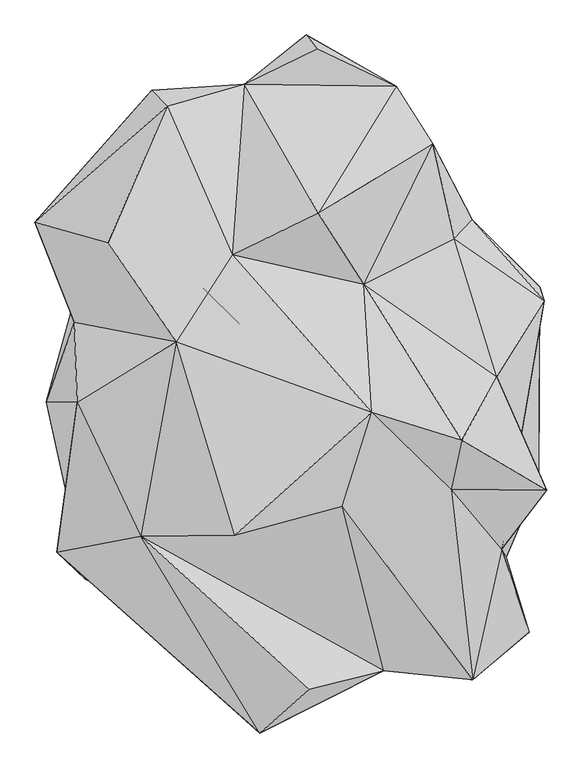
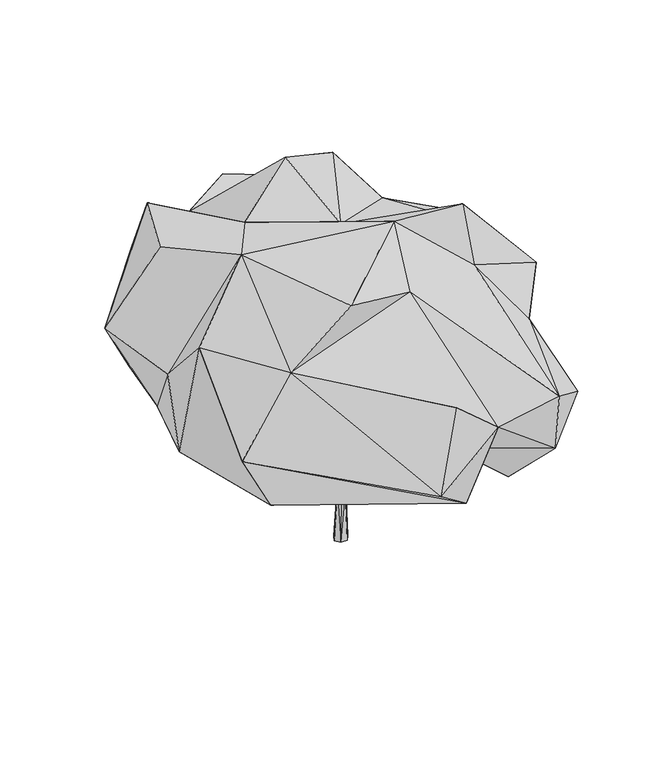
"""IFC4 building model written with IfcOpenShell, lengths in millimetres: geographic element geometry, Enscape AssetDefinition - Evergreen Tree 022 Ficus : Enscape AssetDefinition - Evergreen Tree 022 Ficus."""

from ifc_helpers import new_model, si_unit, origin, place, context, project, spatial, triangles, source, transform, mapped, element, save


def geographic_element_002eea6f(model_context):
    return source(origin(), model_context, "Body", "Tessellation", [
        triangles([(61.7310658, -33.4773216, 197.4501027), (116.2633613, -68.2591965, 326.882155), (314.4827302, -324.8400558, 722.4356272), (121.4255825, -53.480184, 326.3919597), (48.5447794, -12.6763225, 210.8935953), (46.5692596, -20.8706556, 206.6611865), (52.761487, -28.8826484, 200.9000374), (308.0960924, -316.7555929, 730.591452), (125.0771765, -71.2442387, 318.5719428), (73.9960012, -18.8830498, 195.5917132), (61.156278, -3.082454, 207.3168878), (321.4357215, -310.6080757, 728.1243788), (324.3193027, -317.663677, 722.2895605), (133.7339882, -62.3096732, 320.0402398), (-25.9686048, 22.9290238, 363.1227482), (64.3236492, -18.1911396, 225.0097032), (51.0842229, -24.208288, 231.9916716), (2.1548918, -133.0531431, 357.4110692), (-41.170275, 20.0454221, 371.7844288), (-36.5442038, 32.6013758, 373.0885643), (-102.222049, 78.2147934, 439.3375365), (-157.1661153, 108.6035999, 496.9249372), (-106.2890155, 76.665533, 425.8952974), (-57.9139432, 28.7940182, 365.7443178), (-44.6854084, 34.81117, 354.2304857), (51.8111634, -12.9214531, 213.4958347), (48.7452305, -22.6010573, 211.7376753), (-103.1941099, 64.7109302, 438.084161), (-115.3141459, 69.2174456, 433.8867791), (-160.4916754, 96.6973045, 499.3689377), (-152.2309151, 95.8363378, 507.278375), (-252.1001462, 190.7075091, 656.2145966), (-240.4920794, 197.2342183, 662.6121712), (-246.0757138, 202.6874647, 654.6013229), (-146.868261, 105.6753266, 503.7112962), (57.5614438, -29.7387962, 219.8027899), (38.23726, -92.5270285, 303.9402051), (23.6381534, -96.1508444, 297.1381494), (33.4554161, -99.3701337, 298.1199027), (28.7750196, -84.5041625, 304.7661721), (91.2686024, -311.9242018, 751.7533144), (23.7407952, -132.4228219, 364.7251213), (18.2899889, -124.076311, 364.4099516), (92.6318913, -323.9814963, 749.2344275), (79.146141, -313.5290457, 748.8878643), (7.1057873, -132.670354, 376.7340177), (-189.3155338, -339.6600451, 584.0291408), (81.4730611, -325.4727934, 746.3992081), (-195.7335832, -336.867047, 580.5623102), (7.663668, -148.2294606, 367.0158245), (-195.6804614, -343.4771087, 575.9084882), (12.8935035, -144.5790657, 374.653476), (64.6182805, -8.4692658, 196.3585087), (341.6981838, -14.3839081, 699.196784), (349.4480742, -26.8408399, 695.0790848), (56.3599456, -30.5719938, 203.7667229), (70.2888646, -24.7685735, 195.3405657), (49.2958691, -9.1068467, 204.4079265), (47.4773164, -22.2267183, 206.908755), (336.8873219, -25.9762487, 702.2287937), (-44.7542268, 184.2641524, 487.280395), (51.4006008, 96.1829463, 295.3631669), (-27.9344731, 185.3219367, 493.5233279), (37.8122042, 104.5596334, 307.2791001), (49.9515568, -25.4158201, 213.8544793), (66.0335194, -24.2191521, 214.6272882), (46.087444, -13.9442297, 197.4319897), (45.106926, -18.5944535, 205.7120984), (20.0046905, 131.4429761, 329.2949075), (40.3661407, 125.0538948, 305.2879063), (-44.5694816, 188.4579008, 507.6720283), (-36.2338575, 214.7737364, 522.2107847), (-36.2254119, 191.3789253, 483.1433292), (58.3560038, 367.8456794, 724.988669), (-26.9684484, 197.253603, 506.198826), (-27.7062417, 206.6554637, 534.8113601), (53.4232198, 360.1259108, 732.1396133), (46.5873635, 366.4606258, 729.3394209), (72.0494539, -15.1517675, 203.2281838), (61.0850342, -9.199824, 193.1198982), (87.868165, -19.7403467, -5.3e-06), (62.3915814, 0.7514672, 218.9382169), (72.3223524, -43.7461488, -1.18e-05), (66.6590126, 6.1818118, 1.7e-06), (80.5058327, -17.1248859, 221.7324504), (42.5143563, 3.416556, 9e-07), (52.856889, -3.3094748, 221.8640921), (44.61064, -18.9881124, 221.7602104), (30.1479781, -19.7403467, -5.3e-06), (69.2443563, -33.6258522, 220.3836229), (57.3211469, -34.6667498, 222.1309181), (45.6986187, -43.3766447, -1.17e-05), (-417.7171992, -477.0777474, 1186.4659515), (-159.3010504, -474.5504671, 1393.2215), (-591.5697052, -108.8241533, 1135.1966972), (44.9318368, -896.1806179, 1119.8873846), (-90.575358, -1016.5476894, 842.7024141), (84.3264571, -896.1298216, 678.8374889), (-647.1779388, -521.0934837, 893.6097719), (-169.0156464, -392.8736575, 494.4541577), (172.8243165, -630.8801691, 736.185878), (-459.8215333, -287.1238624, 631.1930134), (-569.9041308, -594.3522388, 716.5090267), (-599.0540231, 109.4222182, 886.6665184), (-676.6406027, -108.2335371, 698.5748743), (-591.7447672, 200.6285969, 684.9213472), (-110.7714, -212.9775887, 741.6234821), (503.883415, -551.3408744, 548.5119046), (478.7111506, -868.1825449, 769.8143486), (353.885812, -738.1068363, 608.5251019), (380.3948407, 360.5267584, 738.0771143), (427.6927895, -196.5236876, 692.7399834), (96.2182912, -40.5874299, 699.0771692), (674.2678551, -325.9654232, 664.5862513), (585.0455031, -533.9465146, 839.4638037), (647.4449284, -739.7273769, 888.6974264), (492.7632362, -871.1085291, 999.4416115), (249.135756, -845.4821136, 930.8319185), (135.6080744, -395.1730448, 1305.384129), (433.9744191, -348.2905503, 1293.6662395), (216.8281168, -136.5903, 1435.1955368), (696.0421801, -350.9965625, 1214.940885), (-319.2656505, 56.4607979, 1356.3314552), (462.4963337, -213.935361, 1475.3595097), (193.6325668, 214.1347492, 1219.9172527), (442.6589908, 339.4455234, 1172.4698582), (572.3785074, -512.4306767, 1101.4133669), (559.0219462, -39.9330912, 1264.9583988), (689.2050974, 169.0357578, 1127.5323395), (491.4687658, 391.620718, 963.077116), (676.4426497, 207.3388523, 780.6353451), (383.5247732, 600.0714392, 1238.8793221), (283.4828419, 757.7586164, 1075.5301357), (69.7998183, 408.1289037, 1444.2763779), (66.7145643, 860.2362276, 1096.8575403), (36.3510879, 897.8220875, 568.8483813), (-73.2315493, 475.2535855, 552.3182857), (-132.9031159, 763.1720215, 1055.6794579), (-345.1793667, 701.8945845, 1206.5211227), (-166.3639187, 295.334226, 1302.6142399), (-707.5342112, 384.2982362, 965.0477806), (-237.0035205, 381.036771, 690.3697065), (-387.3259583, 745.9141359, 993.0529753), (-238.7641143, 605.6250246, 624.9709368), (-568.6700492, 446.5382961, 705.8431807), (-505.9373231, 328.5269674, 1292.9261684), (268.7799421, 730.1727276, 623.4252462)], [[101, 109, 118], [101, 110, 109], [113, 147, 111], [123, 146, 104], [106, 104, 141], [146, 141, 104], [141, 145, 106], [145, 142, 106], [106, 142, 113], [137, 113, 142], [137, 147, 113], [142, 144, 137], [144, 142, 143], [145, 141, 143], [145, 143, 142], [139, 143, 141], [139, 141, 146], [140, 146, 123], [139, 146, 140], [139, 138, 143], [143, 138, 144], [138, 139, 140], [147, 137, 136], [138, 135, 136], [136, 137, 144], [136, 144, 138], [138, 133, 135], [136, 135, 133], [133, 147, 136], [133, 138, 134], [138, 140, 134], [134, 132, 133], [133, 132, 147], [130, 111, 147], [130, 131, 111], [147, 132, 130], [129, 131, 130], [129, 127, 131], [129, 130, 126], [132, 126, 130], [132, 134, 125], [125, 134, 140], [132, 125, 126], [126, 128, 129], [127, 129, 128], [128, 126, 125], [128, 122, 127], [124, 122, 128], [128, 125, 124], [140, 123, 121], [121, 124, 125], [121, 125, 140], [123, 94, 121], [122, 120, 127], [120, 124, 121], [122, 124, 120], [119, 120, 121], [119, 121, 94], [117, 120, 119], [118, 109, 117], [127, 120, 117], [119, 118, 117], [116, 117, 109], [127, 117, 116], [115, 127, 116], [116, 109, 115], [114, 127, 115], [114, 131, 127], [111, 112, 113], [112, 111, 131], [112, 131, 114], [110, 108, 109], [110, 101, 108], [115, 108, 114], [115, 109, 108], [114, 108, 112], [107, 113, 112], [112, 108, 107], [107, 108, 101], [101, 100, 107], [113, 107, 102], [107, 100, 102], [106, 113, 102], [105, 104, 106], [105, 106, 102], [105, 95, 104], [95, 123, 104], [103, 99, 95], [102, 103, 105], [105, 103, 95], [100, 103, 102], [98, 99, 103], [98, 101, 118], [100, 101, 98], [98, 103, 100], [99, 98, 97], [97, 98, 118], [118, 96, 97], [96, 118, 93], [95, 99, 93], [95, 93, 123], [94, 123, 93], [93, 119, 94], [96, 93, 97], [119, 93, 118], [93, 99, 97], [90, 91, 92], [90, 92, 83], [88, 89, 92], [88, 92, 91], [88, 87, 86], [88, 86, 89], [82, 84, 86], [82, 86, 87], [81, 85, 90], [81, 84, 82], [81, 90, 83], [81, 82, 85], [70, 80, 67], [70, 79, 80], [62, 66, 79], [62, 79, 70], [70, 63, 62], [78, 71, 76], [76, 77, 78], [63, 76, 71], [76, 63, 75], [76, 75, 74], [76, 74, 77], [71, 78, 72], [74, 72, 78], [74, 73, 72], [73, 75, 63], [74, 75, 73], [70, 73, 63], [73, 61, 72], [71, 72, 61], [73, 70, 69], [61, 73, 69], [70, 67, 69], [69, 67, 68], [69, 64, 61], [64, 65, 66], [66, 62, 64], [64, 62, 63], [71, 64, 63], [64, 69, 68], [71, 61, 64], [64, 68, 65], [58, 59, 60], [59, 56, 60], [58, 60, 54], [58, 54, 53], [55, 57, 53], [56, 55, 60], [57, 55, 56], [55, 53, 54], [52, 44, 48], [47, 50, 52], [50, 51, 18], [47, 51, 50], [18, 51, 49], [48, 45, 46], [46, 49, 47], [47, 52, 46], [46, 52, 48], [18, 49, 46], [45, 41, 46], [41, 43, 46], [40, 46, 43], [46, 40, 18], [44, 52, 42], [40, 43, 42], [42, 43, 41], [42, 41, 44], [52, 50, 42], [40, 42, 37], [37, 16, 40], [37, 42, 39], [39, 42, 50], [50, 18, 38], [39, 50, 38], [39, 38, 36], [37, 39, 36], [37, 36, 16], [26, 16, 27], [38, 27, 36], [36, 27, 16], [22, 34, 35], [33, 35, 34], [22, 32, 34], [31, 33, 32], [33, 31, 35], [31, 28, 35], [22, 30, 32], [30, 31, 32], [28, 31, 30], [22, 29, 30], [28, 30, 29], [28, 29, 24], [25, 26, 27], [16, 26, 25], [27, 24, 25], [22, 23, 29], [23, 25, 24], [24, 29, 23], [21, 23, 22], [28, 21, 35], [21, 22, 35], [21, 20, 23], [20, 16, 25], [23, 20, 25], [28, 20, 21], [19, 28, 24], [19, 20, 28], [15, 16, 20], [19, 15, 20], [17, 18, 40], [15, 19, 17], [40, 16, 17], [27, 38, 17], [17, 19, 24], [15, 17, 16], [18, 17, 38], [17, 24, 27], [13, 3, 9], [4, 8, 12], [11, 5, 4], [14, 13, 9], [12, 13, 14], [4, 12, 14], [14, 11, 4], [14, 10, 11], [9, 10, 14], [9, 1, 10], [2, 3, 8], [2, 6, 7], [5, 6, 2], [4, 5, 2], [2, 7, 1], [9, 3, 2], [2, 8, 4], [2, 1, 9]], closed=False),
    ])


if __name__ == "__main__":
    model = new_model("IFC4")
    model_context = context("Model", 3, world=origin())
    ifc_project = project(units=[si_unit("LENGTHUNIT", "METRE", prefix="MILLI")], contexts=[model_context])
    site = spatial("IfcSite", under=ifc_project)
    building = spatial("IfcBuilding", under=site)
    placement = place(None, origin())
    geographic_element_shape = geographic_element_002eea6f(model_context)
    element("IfcGeographicElement", 1, ObjectType="Enscape AssetDefinition - Evergreen Tree 022 Ficus : Enscape AssetDefinition - Evergreen Tree 022 Ficus", at=placement, inside=building, context=model_context, shape_type="MappedRepresentation", body=[
        mapped(geographic_element_shape, transform((0.0, 0.0, 0.0), x_axis=(1.0, 0.0, 0.0), y_axis=(0.0, 1.0, 0.0), z_axis=(0.0, 0.0, 1.0))),
    ])
    save(model, "model.ifc")
